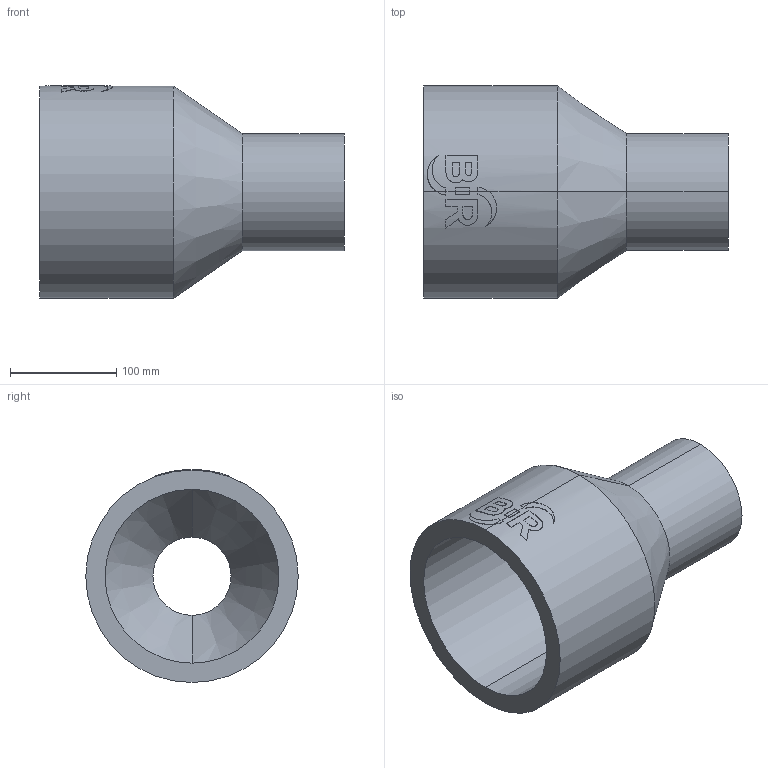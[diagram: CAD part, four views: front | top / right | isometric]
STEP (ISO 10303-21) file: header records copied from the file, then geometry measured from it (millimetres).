
FILE_DESCRIPTION (( 'STEP AP214' ), '1' );
FILE_NAME ('2323191435.STEP', '2018-07-20T09:57:07', ( '' ), ( '' ), 'SwSTEP 2.0', 'SolidWorks 2017', '' );
FILE_SCHEMA (( 'AUTOMOTIVE_DESIGN' ));
Length unit declared in the file: millimetre
Products named in the file (1): 2323191435
Bounding box: 287 x 200 x 200.46 mm (x, y, z)
Volume: 2418111.3 mm3; surface area: 281561 mm2
Topology: 1 solids, 1 shells, 63 faces, 160 edges, 104 vertices
Faces by surface type: cylinder 31, plane 28, cone 4
Entity records: 3293 total; most frequent: CARTESIAN_POINT 1084, ORIENTED_EDGE 320, DIRECTION 296, EDGE_CURVE 160, AXIS2_PLACEMENT_3D 112, VERTEX_POINT 104, LINE 72, VECTOR 72
